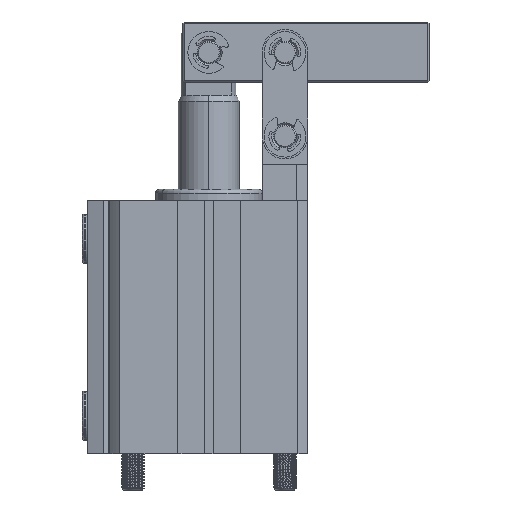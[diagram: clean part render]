
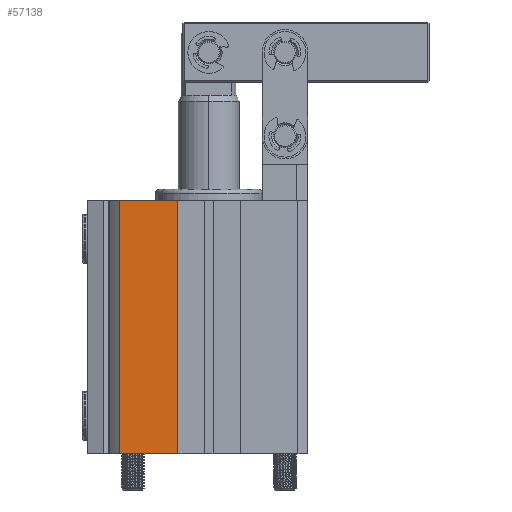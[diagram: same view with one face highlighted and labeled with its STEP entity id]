
A CAD part, front view. The second image highlights one B-rep face of the part: STEP entity #57138.
In plain terms, the highlighted planar face has unit normal (0, -1, 0).
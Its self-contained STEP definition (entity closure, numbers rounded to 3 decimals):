
#43832 = PLANE('',#43833);
#43833 = AXIS2_PLACEMENT_3D('',#43834,#43835,#43836);
#43834 = CARTESIAN_POINT('',(-4.343,-61.581,25.75));
#43835 = DIRECTION('',(-0.,0.,1.));
#43836 = DIRECTION('',(1.,0.,0.));
#44741 = PLANE('',#44742);
#44742 = AXIS2_PLACEMENT_3D('',#44743,#44744,#44745);
#44743 = CARTESIAN_POINT('',(-2.977,-2.116,-40.75));
#44744 = DIRECTION('',(0.,0.,1.));
#44745 = DIRECTION('',(1.,0.,-0.));
#54186 = PLANE('',#54187);
#54187 = AXIS2_PLACEMENT_3D('',#54188,#54189,#54190);
#54188 = CARTESIAN_POINT('',(-11.227,-61.581,-25.75));
#54189 = DIRECTION('',(1.,0.,-0.));
#54190 = DIRECTION('',(0.,1.,0.));
#55393 = VERTEX_POINT('',#55394);
#55394 = CARTESIAN_POINT('',(-11.227,-28.116,25.75));
#55415 = EDGE_CURVE('',#55416,#55393,#55418,.T.);
#55416 = VERTEX_POINT('',#55417);
#55417 = CARTESIAN_POINT('',(-11.227,-28.116,-40.75));
#55418 = SURFACE_CURVE('',#55419,(#55423,#55430),.PCURVE_S1.);
#55419 = LINE('',#55420,#55421);
#55420 = CARTESIAN_POINT('',(-11.227,-28.116,-25.75));
#55421 = VECTOR('',#55422,1.);
#55422 = DIRECTION('',(0.,0.,1.));
#55423 = PCURVE('',#54186,#55424);
#55424 = DEFINITIONAL_REPRESENTATION('',(#55425),#55429);
#55425 = LINE('',#55426,#55427);
#55426 = CARTESIAN_POINT('',(33.465,0.));
#55427 = VECTOR('',#55428,1.);
#55428 = DIRECTION('',(0.,1.));
#55429 = ( GEOMETRIC_REPRESENTATION_CONTEXT(2) 
PARAMETRIC_REPRESENTATION_CONTEXT() REPRESENTATION_CONTEXT('2D SPACE',''
  ) );
#55430 = PCURVE('',#55431,#55436);
#55431 = PLANE('',#55432);
#55432 = AXIS2_PLACEMENT_3D('',#55433,#55434,#55435);
#55433 = CARTESIAN_POINT('',(-4.343,-28.116,-25.75));
#55434 = DIRECTION('',(0.,-1.,0.));
#55435 = DIRECTION('',(1.,0.,0.));
#55436 = DEFINITIONAL_REPRESENTATION('',(#55437),#55441);
#55437 = LINE('',#55438,#55439);
#55438 = CARTESIAN_POINT('',(-6.885,0.));
#55439 = VECTOR('',#55440,1.);
#55440 = DIRECTION('',(0.,1.));
#55441 = ( GEOMETRIC_REPRESENTATION_CONTEXT(2) 
PARAMETRIC_REPRESENTATION_CONTEXT() REPRESENTATION_CONTEXT('2D SPACE',''
  ) );
#57033 = CYLINDRICAL_SURFACE('',#57034,35.);
#57034 = AXIS2_PLACEMENT_3D('',#57035,#57036,#57037);
#57035 = CARTESIAN_POINT('',(-2.977,-2.116,-25.75));
#57036 = DIRECTION('',(0.,0.,1.));
#57037 = DIRECTION('',(1.,0.,-0.));
#57071 = VERTEX_POINT('',#57072);
#57072 = CARTESIAN_POINT('',(-26.408,-28.116,-40.75));
#57094 = EDGE_CURVE('',#57095,#57071,#57097,.T.);
#57095 = VERTEX_POINT('',#57096);
#57096 = CARTESIAN_POINT('',(-26.408,-28.116,25.75));
#57097 = SURFACE_CURVE('',#57098,(#57102,#57109),.PCURVE_S1.);
#57098 = LINE('',#57099,#57100);
#57099 = CARTESIAN_POINT('',(-26.408,-28.116,-25.75));
#57100 = VECTOR('',#57101,1.);
#57101 = DIRECTION('',(-0.,-0.,-1.));
#57102 = PCURVE('',#57033,#57103);
#57103 = DEFINITIONAL_REPRESENTATION('',(#57104),#57108);
#57104 = LINE('',#57105,#57106);
#57105 = CARTESIAN_POINT('',(3.979,0.));
#57106 = VECTOR('',#57107,1.);
#57107 = DIRECTION('',(0.,-1.));
#57108 = ( GEOMETRIC_REPRESENTATION_CONTEXT(2) 
PARAMETRIC_REPRESENTATION_CONTEXT() REPRESENTATION_CONTEXT('2D SPACE',''
  ) );
#57109 = PCURVE('',#55431,#57110);
#57110 = DEFINITIONAL_REPRESENTATION('',(#57111),#57115);
#57111 = LINE('',#57112,#57113);
#57112 = CARTESIAN_POINT('',(-22.066,0.));
#57113 = VECTOR('',#57114,1.);
#57114 = DIRECTION('',(0.,-1.));
#57115 = ( GEOMETRIC_REPRESENTATION_CONTEXT(2) 
PARAMETRIC_REPRESENTATION_CONTEXT() REPRESENTATION_CONTEXT('2D SPACE',''
  ) );
#57138 = ADVANCED_FACE('',(#57139),#55431,.T.);
#57139 = FACE_BOUND('',#57140,.T.);
#57140 = EDGE_LOOP('',(#57141,#57142,#57163,#57164));
#57141 = ORIENTED_EDGE('',*,*,#57094,.T.);
#57142 = ORIENTED_EDGE('',*,*,#57143,.T.);
#57143 = EDGE_CURVE('',#57071,#55416,#57144,.T.);
#57144 = SURFACE_CURVE('',#57145,(#57149,#57156),.PCURVE_S1.);
#57145 = LINE('',#57146,#57147);
#57146 = CARTESIAN_POINT('',(-11.227,-28.116,-40.75));
#57147 = VECTOR('',#57148,1.);
#57148 = DIRECTION('',(1.,0.,-0.));
#57149 = PCURVE('',#55431,#57150);
#57150 = DEFINITIONAL_REPRESENTATION('',(#57151),#57155);
#57151 = LINE('',#57152,#57153);
#57152 = CARTESIAN_POINT('',(-6.885,-15.));
#57153 = VECTOR('',#57154,1.);
#57154 = DIRECTION('',(1.,0.));
#57155 = ( GEOMETRIC_REPRESENTATION_CONTEXT(2) 
PARAMETRIC_REPRESENTATION_CONTEXT() REPRESENTATION_CONTEXT('2D SPACE',''
  ) );
#57156 = PCURVE('',#44741,#57157);
#57157 = DEFINITIONAL_REPRESENTATION('',(#57158),#57162);
#57158 = LINE('',#57159,#57160);
#57159 = CARTESIAN_POINT('',(-8.25,-26.));
#57160 = VECTOR('',#57161,1.);
#57161 = DIRECTION('',(1.,0.));
#57162 = ( GEOMETRIC_REPRESENTATION_CONTEXT(2) 
PARAMETRIC_REPRESENTATION_CONTEXT() REPRESENTATION_CONTEXT('2D SPACE',''
  ) );
#57163 = ORIENTED_EDGE('',*,*,#55415,.T.);
#57164 = ORIENTED_EDGE('',*,*,#57165,.F.);
#57165 = EDGE_CURVE('',#57095,#55393,#57166,.T.);
#57166 = SURFACE_CURVE('',#57167,(#57171,#57178),.PCURVE_S1.);
#57167 = LINE('',#57168,#57169);
#57168 = CARTESIAN_POINT('',(-4.343,-28.116,25.75));
#57169 = VECTOR('',#57170,1.);
#57170 = DIRECTION('',(1.,0.,0.));
#57171 = PCURVE('',#55431,#57172);
#57172 = DEFINITIONAL_REPRESENTATION('',(#57173),#57177);
#57173 = LINE('',#57174,#57175);
#57174 = CARTESIAN_POINT('',(0.,51.5));
#57175 = VECTOR('',#57176,1.);
#57176 = DIRECTION('',(1.,0.));
#57177 = ( GEOMETRIC_REPRESENTATION_CONTEXT(2) 
PARAMETRIC_REPRESENTATION_CONTEXT() REPRESENTATION_CONTEXT('2D SPACE',''
  ) );
#57178 = PCURVE('',#43832,#57179);
#57179 = DEFINITIONAL_REPRESENTATION('',(#57180),#57184);
#57180 = LINE('',#57181,#57182);
#57181 = CARTESIAN_POINT('',(0.,33.465));
#57182 = VECTOR('',#57183,1.);
#57183 = DIRECTION('',(1.,0.));
#57184 = ( GEOMETRIC_REPRESENTATION_CONTEXT(2) 
PARAMETRIC_REPRESENTATION_CONTEXT() REPRESENTATION_CONTEXT('2D SPACE',''
  ) );
